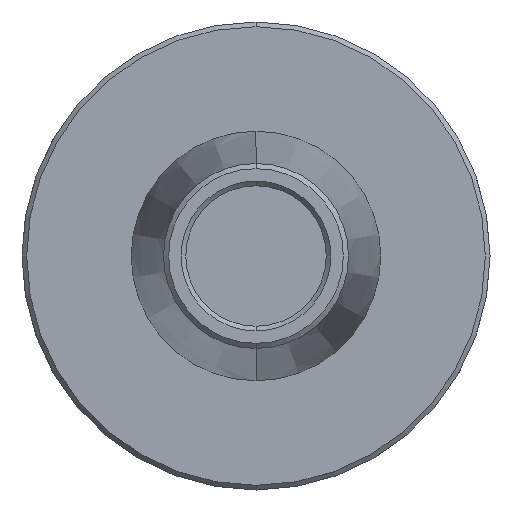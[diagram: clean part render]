
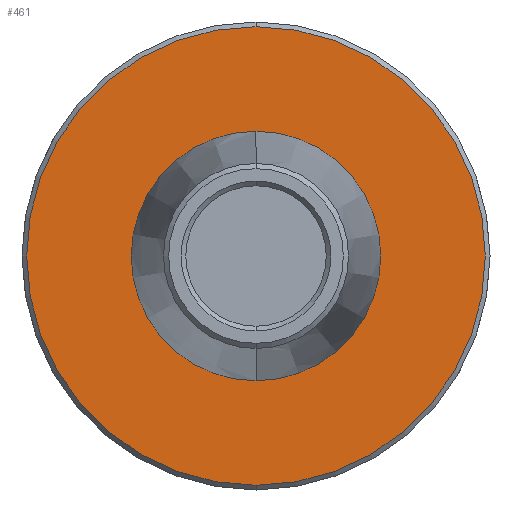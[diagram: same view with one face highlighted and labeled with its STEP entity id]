
A CAD part, front view. The second image highlights one B-rep face of the part: STEP entity #461.
In plain terms, the highlighted planar face has unit normal (0, -1, 0).
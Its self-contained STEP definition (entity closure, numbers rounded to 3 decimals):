
#35 = CARTESIAN_POINT ( 'NONE',  ( 0., 0., 0. ) ) ;
#36 = DIRECTION ( 'NONE',  ( 0., 0., 1. ) ) ;
#49 = CARTESIAN_POINT ( 'NONE',  ( 0., 0., -8. ) ) ;
#65 = AXIS2_PLACEMENT_3D ( 'NONE', #642, #211, #386 ) ;
#74 = ORIENTED_EDGE ( 'NONE', *, *, #321, .T. ) ;
#82 = ORIENTED_EDGE ( 'NONE', *, *, #817, .T. ) ;
#151 = FACE_BOUND ( 'NONE', #432, .T. ) ;
#162 = DIRECTION ( 'NONE',  ( 0., 0., 1. ) ) ;
#184 = DIRECTION ( 'NONE',  ( 0., -1., 0. ) ) ;
#204 = VERTEX_POINT ( 'NONE', #293 ) ;
#211 = DIRECTION ( 'NONE',  ( 0., -1., 0. ) ) ;
#235 = CIRCLE ( 'NONE', #630, 8. ) ;
#240 = FACE_OUTER_BOUND ( 'NONE', #503, .T. ) ;
#257 = CIRCLE ( 'NONE', #65, 8. ) ;
#265 = CIRCLE ( 'NONE', #575, 14.7 ) ;
#293 = CARTESIAN_POINT ( 'NONE',  ( 0., 0., 8. ) ) ;
#298 = CARTESIAN_POINT ( 'NONE',  ( 0., 0., 14.7 ) ) ;
#321 = EDGE_CURVE ( 'NONE', #1089, #325, #265, .T. ) ;
#325 = VERTEX_POINT ( 'NONE', #298 ) ;
#386 = DIRECTION ( 'NONE',  ( 0., 0., 1. ) ) ;
#432 = EDGE_LOOP ( 'NONE', ( #654, #1119 ) ) ;
#461 = ADVANCED_FACE ( 'NONE', ( #240, #151 ), #818, .F. ) ;
#470 = DIRECTION ( 'NONE',  ( 0., -1., 0. ) ) ;
#477 = DIRECTION ( 'NONE',  ( 0., 0., 1. ) ) ;
#485 = AXIS2_PLACEMENT_3D ( 'NONE', #35, #553, #639 ) ;
#503 = EDGE_LOOP ( 'NONE', ( #82, #74 ) ) ;
#533 = CIRCLE ( 'NONE', #485, 14.7 ) ;
#553 = DIRECTION ( 'NONE',  ( 0., -1., 0. ) ) ;
#575 = AXIS2_PLACEMENT_3D ( 'NONE', #909, #470, #36 ) ;
#630 = AXIS2_PLACEMENT_3D ( 'NONE', #1044, #184, #162 ) ;
#639 = DIRECTION ( 'NONE',  ( 0., 0., 1. ) ) ;
#642 = CARTESIAN_POINT ( 'NONE',  ( 0., 0., 0. ) ) ;
#654 = ORIENTED_EDGE ( 'NONE', *, *, #794, .F. ) ;
#794 = EDGE_CURVE ( 'NONE', #933, #204, #257, .T. ) ;
#817 = EDGE_CURVE ( 'NONE', #325, #1089, #533, .T. ) ;
#818 = PLANE ( 'NONE',  #1033 ) ;
#909 = CARTESIAN_POINT ( 'NONE',  ( 0., 0., 0. ) ) ;
#915 = DIRECTION ( 'NONE',  ( 0., 1., 0. ) ) ;
#933 = VERTEX_POINT ( 'NONE', #49 ) ;
#1033 = AXIS2_PLACEMENT_3D ( 'NONE', #1111, #915, #477 ) ;
#1044 = CARTESIAN_POINT ( 'NONE',  ( 0., 0., 0. ) ) ;
#1089 = VERTEX_POINT ( 'NONE', #1124 ) ;
#1098 = EDGE_CURVE ( 'NONE', #204, #933, #235, .T. ) ;
#1111 = CARTESIAN_POINT ( 'NONE',  ( 0., 0., 0. ) ) ;
#1119 = ORIENTED_EDGE ( 'NONE', *, *, #1098, .F. ) ;
#1124 = CARTESIAN_POINT ( 'NONE',  ( 0., 0., -14.7 ) ) ;
